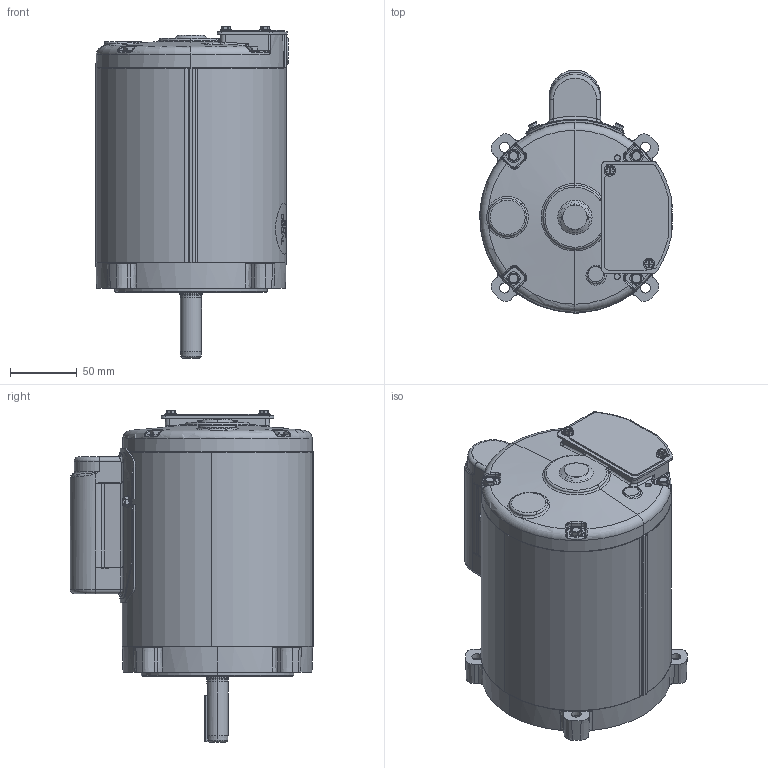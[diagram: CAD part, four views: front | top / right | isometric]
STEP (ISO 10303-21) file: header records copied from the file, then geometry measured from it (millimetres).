
FILE_DESCRIPTION (( 'STEP AP203' ), '1' );
FILE_NAME ('031754-575_RevA.STEP', '2018-09-17T09:32:55', ( '' ), ( '' ), 'SwSTEP 2.0', 'SolidWorks 2015', '' );
FILE_SCHEMA (( 'CONFIG_CONTROL_DESIGN' ));
Length unit declared in the file: inch
Products named in the file (1): 031754-575_RevA
Bounding box: 144.27 x 182.5 x 248.87 mm (x, y, z)
Volume: 392595.5 mm3; surface area: 359987.9 mm2
Topology: 25 solids, 25 shells, 2611 faces, 6259 edges, 3688 vertices
Faces by surface type: bspline 733, plane 677, cylinder 418, cone 341, torus 322, sphere 120
Entity records: 106094 total; most frequent: CARTESIAN_POINT 51210, ORIENTED_EDGE 12298, DIRECTION 10448, EDGE_CURVE 6149, AXIS2_PLACEMENT_3D 4453, VERTEX_POINT 3688, EDGE_LOOP 2765, FACE_OUTER_BOUND 2611
